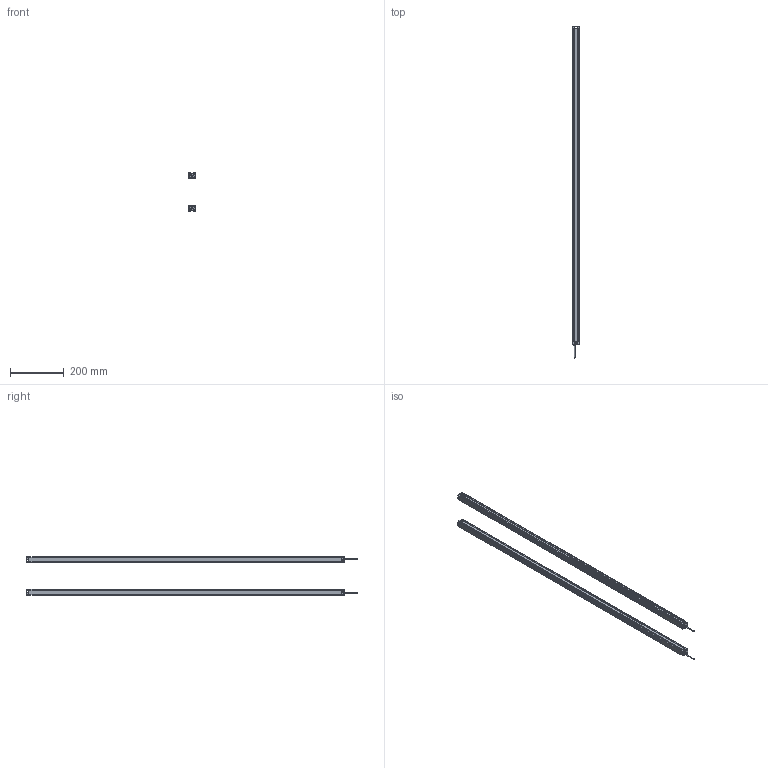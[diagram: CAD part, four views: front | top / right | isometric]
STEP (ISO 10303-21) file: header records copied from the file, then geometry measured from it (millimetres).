
FILE_DESCRIPTION (( 'STEP AP214' ), '1' );
FILE_NAME ('MTC5820.STEP', '2022-08-02T09:08:24', ( '' ), ( '' ), 'SwSTEP 2.0', 'SolidWorks 2018', '' );
FILE_SCHEMA (( 'AUTOMOTIVE_DESIGN' ));
Length unit declared in the file: millimetre
Products named in the file (5): P01^MTC; P02^MTC; MTC5820; MTC waike^MTC; 噩砃P02^MTC
Assembly tree (6 placements, depth 2):
  MTC5820
    MTC waike^MTC  x2
    P01^MTC  x2
    P02^MTC
    噩砃P02^MTC
Bounding box: 25 x 1232 x 141.4 mm (x, y, z)
Volume: 388013.5 mm3; surface area: 539024.1 mm2
Topology: 8 solids, 8 shells, 480 faces, 1396 edges, 924 vertices
Faces by surface type: plane 272, cylinder 208
Entity records: 10886 total; most frequent: DIRECTION 1881, CARTESIAN_POINT 1878, ORIENTED_EDGE 1846, EDGE_CURVE 923, AXIS2_PLACEMENT_3D 637, VERTEX_POINT 610, VECTOR 607, LINE 607
